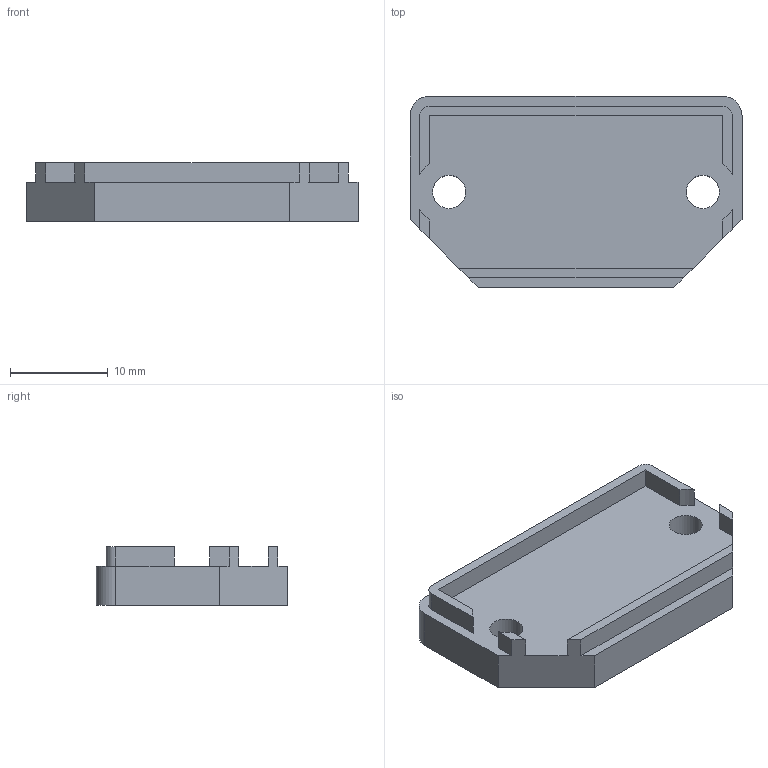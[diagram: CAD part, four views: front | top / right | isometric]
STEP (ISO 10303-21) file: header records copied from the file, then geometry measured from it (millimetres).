
FILE_DESCRIPTION(('FreeCAD Model'),'2;1');
FILE_NAME('Open CASCADE Shape Model','2026-09-29T21:45:23',('Author'),( ''),'Open CASCADE STEP processor 7.8','FreeCAD','Unknown');
FILE_SCHEMA(('AUTOMOTIVE_DESIGN { 1 0 10303 214 1 1 1 1 }'));
Length unit declared in the file: millimetre
Products named in the file (1): service_switch_cover
Bounding box: 34 x 19.6 x 6 mm (x, y, z)
Volume: 2321.7 mm3; surface area: 2091.5 mm2
Topology: 1 solids, 1 shells, 49 faces, 132 edges, 88 vertices
Faces by surface type: plane 35, cylinder 14
Full cylindrical faces by diameter (mm): 3.4 x2
Entity records: 1552 total; most frequent: CARTESIAN_POINT 270, ORIENTED_EDGE 264, DIRECTION 260, EDGE_CURVE 132, LINE 104, VECTOR 104, VERTEX_POINT 88, AXIS2_PLACEMENT_3D 78
